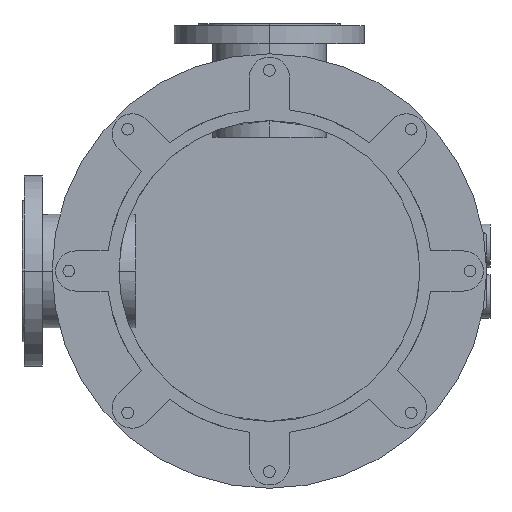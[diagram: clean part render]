
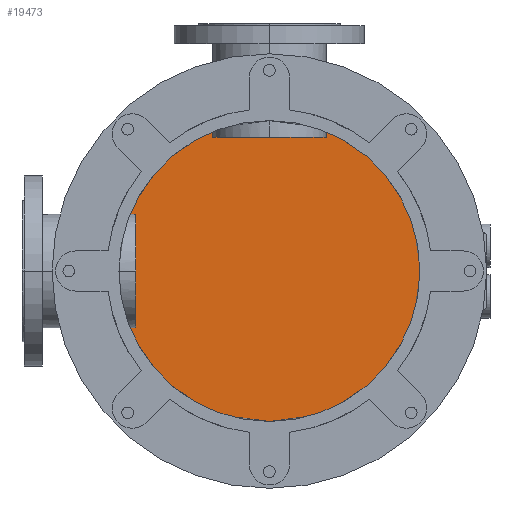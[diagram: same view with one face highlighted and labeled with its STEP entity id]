
A CAD part, front view. The second image highlights one B-rep face of the part: STEP entity #19473.
In plain terms, the highlighted planar face has unit normal (0, -1, 0).
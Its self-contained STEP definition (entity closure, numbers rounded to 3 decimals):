
#2779=CARTESIAN_POINT('',(0.,836.,0.));
#2780=DIRECTION('',(0.,-1.,0.));
#2781=DIRECTION('',(0.,0.,1.));
#2782=AXIS2_PLACEMENT_3D('',#2779,#2780,#2781);
#3031=CARTESIAN_POINT('',(0.,836.,0.));
#3032=DIRECTION('',(0.,-1.,0.));
#3033=DIRECTION('',(0.,0.,-1.));
#3034=AXIS2_PLACEMENT_3D('',#3031,#3032,#3033);
#9205=CARTESIAN_POINT('',(0.,836.,240.));
#9206=CARTESIAN_POINT('',(0.,836.,-240.));
#9207=VERTEX_POINT('',#9205);
#9208=VERTEX_POINT('',#9206);
#19464=CARTESIAN_POINT('',(0.,836.,0.));
#19465=DIRECTION('',(0.,1.,0.));
#19466=DIRECTION('',(0.,0.,-1.));
#19467=AXIS2_PLACEMENT_3D('',#19464,#19465,#19466);
#19468=PLANE('',#19467);
#19469=ORIENTED_EDGE('',*,*,#14486,.F.);
#19470=ORIENTED_EDGE('',*,*,#14660,.F.);
#19471=EDGE_LOOP('',(#19469,#19470));
#19472=FACE_OUTER_BOUND('',#19471,.F.);
#19473=ADVANCED_FACE('',(#19472),#19468,.F.);
#2783=CIRCLE('',#2782,240.);
#3035=CIRCLE('',#3034,240.);
#14486=EDGE_CURVE('',#9207,#9208,#2783,.T.);
#14660=EDGE_CURVE('',#9208,#9207,#3035,.T.);
